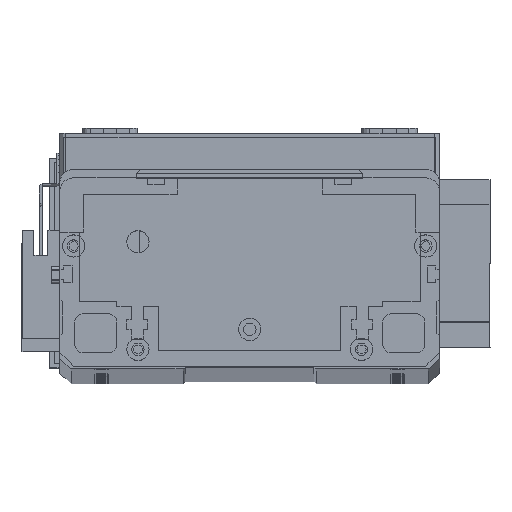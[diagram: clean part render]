
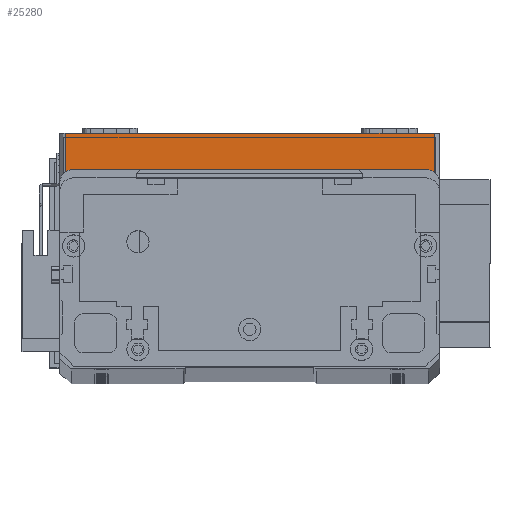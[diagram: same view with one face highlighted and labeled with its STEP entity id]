
A CAD part, top view. The second image highlights one B-rep face of the part: STEP entity #25280.
In plain terms, the highlighted planar face has unit normal (0, 0, 1) as drawn and (0, -1, 0) by its records, which use the part's own axes.
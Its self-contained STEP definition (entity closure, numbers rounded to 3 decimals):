
#503 = FACE_OUTER_BOUND ( 'NONE', #24041, .T. ) ;
#1392 = VECTOR ( 'NONE', #22243, 1000. ) ;
#2169 = CARTESIAN_POINT ( 'NONE',  ( 134., 0., 19.5 ) ) ;
#2781 = AXIS2_PLACEMENT_3D ( 'NONE', #11683, #11802, #28644 ) ;
#2976 = CARTESIAN_POINT ( 'NONE',  ( 0., 0., 19.5 ) ) ;
#4599 = DIRECTION ( 'NONE',  ( 0., 0., 1. ) ) ;
#4782 = CARTESIAN_POINT ( 'NONE',  ( 134., 0., 0. ) ) ;
#6481 = EDGE_CURVE ( 'NONE', #24153, #21782, #14214, .T. ) ;
#6754 = ORIENTED_EDGE ( 'NONE', *, *, #6896, .T. ) ;
#6896 = EDGE_CURVE ( 'NONE', #23228, #24153, #29282, .T. ) ;
#6923 = PLANE ( 'NONE',  #2781 ) ;
#7797 = VECTOR ( 'NONE', #4599, 1000. ) ;
#7810 = ORIENTED_EDGE ( 'NONE', *, *, #17430, .F. ) ;
#10055 = VECTOR ( 'NONE', #15703, 1000. ) ;
#11534 = CARTESIAN_POINT ( 'NONE',  ( 2., 0., 19.5 ) ) ;
#11683 = CARTESIAN_POINT ( 'NONE',  ( 0., 0., 19.5 ) ) ;
#11802 = DIRECTION ( 'NONE',  ( 0., 1., 0. ) ) ;
#11909 = VECTOR ( 'NONE', #23632, 1000. ) ;
#14214 = LINE ( 'NONE', #2169, #7797 ) ;
#14982 = VERTEX_POINT ( 'NONE', #19126 ) ;
#15703 = DIRECTION ( 'NONE',  ( 1., 0., 0. ) ) ;
#17430 = EDGE_CURVE ( 'NONE', #14982, #21782, #26283, .T. ) ;
#18150 = CARTESIAN_POINT ( 'NONE',  ( 0., 0., 0. ) ) ;
#18285 = LINE ( 'NONE', #11534, #11909 ) ;
#19126 = CARTESIAN_POINT ( 'NONE',  ( 2., 0., 19.5 ) ) ;
#21782 = VERTEX_POINT ( 'NONE', #26909 ) ;
#21991 = ORIENTED_EDGE ( 'NONE', *, *, #6481, .T. ) ;
#22243 = DIRECTION ( 'NONE',  ( 1., 0., 0. ) ) ;
#23228 = VERTEX_POINT ( 'NONE', #23246 ) ;
#23246 = CARTESIAN_POINT ( 'NONE',  ( 2., 0., 0. ) ) ;
#23632 = DIRECTION ( 'NONE',  ( 0., 0., -1. ) ) ;
#24000 = EDGE_CURVE ( 'NONE', #14982, #23228, #18285, .T. ) ;
#24041 = EDGE_LOOP ( 'NONE', ( #7810, #27511, #6754, #21991 ) ) ;
#24153 = VERTEX_POINT ( 'NONE', #4782 ) ;
#25280 = ADVANCED_FACE ( 'NONE', ( #503 ), #6923, .F. ) ;
#26283 = LINE ( 'NONE', #2976, #1392 ) ;
#26909 = CARTESIAN_POINT ( 'NONE',  ( 134., 0., 19.5 ) ) ;
#27511 = ORIENTED_EDGE ( 'NONE', *, *, #24000, .T. ) ;
#28644 = DIRECTION ( 'NONE',  ( 0., 0., 1. ) ) ;
#29282 = LINE ( 'NONE', #18150, #10055 ) ;
